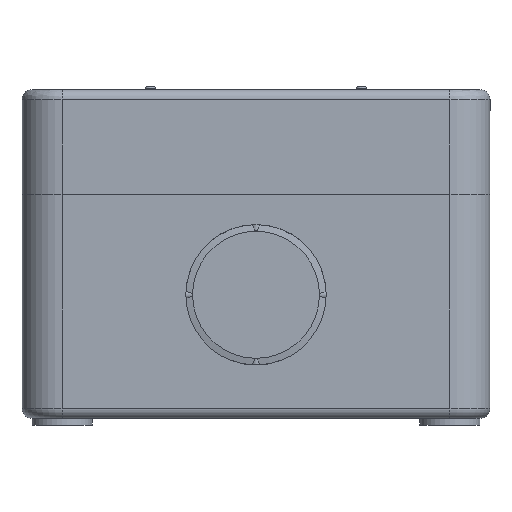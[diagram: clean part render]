
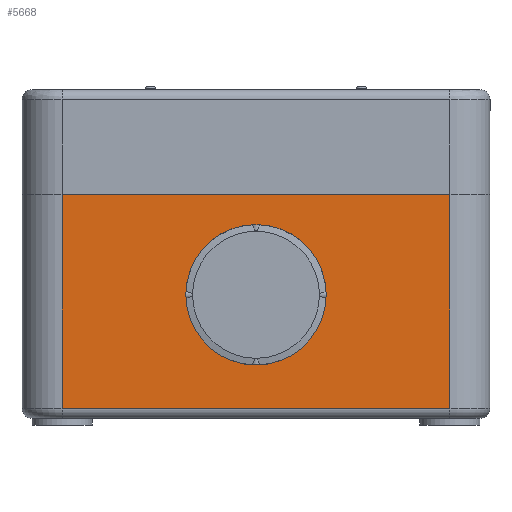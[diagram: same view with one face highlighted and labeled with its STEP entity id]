
A CAD part, front view. The second image highlights one B-rep face of the part: STEP entity #5668.
In plain terms, the highlighted planar face has unit normal (0, -1, 0).
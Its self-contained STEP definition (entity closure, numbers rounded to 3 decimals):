
#52 = AXIS2_PLACEMENT_3D ( 'NONE', #1854, #1346, #2829 ) ;
#207 = VERTEX_POINT ( 'NONE', #1652 ) ;
#433 = CARTESIAN_POINT ( 'NONE',  ( 10.5, 0., 0.25 ) ) ;
#454 = DIRECTION ( 'NONE',  ( 0., 1., 0. ) ) ;
#560 = CARTESIAN_POINT ( 'NONE',  ( 0., 0., 0.25 ) ) ;
#762 = LINE ( 'NONE', #3917, #4707 ) ;
#766 = EDGE_LOOP ( 'NONE', ( #5853, #5694 ) ) ;
#979 = DIRECTION ( 'NONE',  ( 0., 0., -1. ) ) ;
#1058 = DIRECTION ( 'NONE',  ( 1., 0., 0. ) ) ;
#1172 = VERTEX_POINT ( 'NONE', #4330 ) ;
#1346 = DIRECTION ( 'NONE',  ( 0., -1., 0. ) ) ;
#1399 = FACE_OUTER_BOUND ( 'NONE', #5377, .T. ) ;
#1406 = VERTEX_POINT ( 'NONE', #2349 ) ;
#1652 = CARTESIAN_POINT ( 'NONE',  ( -29., 0., -16.75 ) ) ;
#1709 = LINE ( 'NONE', #3748, #4663 ) ;
#1854 = CARTESIAN_POINT ( 'NONE',  ( 35., 0., -18.25 ) ) ;
#2032 = VECTOR ( 'NONE', #2618, 1000. ) ;
#2042 = ORIENTED_EDGE ( 'NONE', *, *, #2044, .T. ) ;
#2044 = EDGE_CURVE ( 'NONE', #1172, #3802, #6129, .T. ) ;
#2185 = ORIENTED_EDGE ( 'NONE', *, *, #6243, .T. ) ;
#2349 = CARTESIAN_POINT ( 'NONE',  ( 29., 0., -16.75 ) ) ;
#2461 = VECTOR ( 'NONE', #3097, 1000. ) ;
#2545 = FACE_BOUND ( 'NONE', #766, .T. ) ;
#2618 = DIRECTION ( 'NONE',  ( -1., 0., 0. ) ) ;
#2829 = DIRECTION ( 'NONE',  ( 0., 0., -1. ) ) ;
#3097 = DIRECTION ( 'NONE',  ( 0., 0., -1. ) ) ;
#3121 = CARTESIAN_POINT ( 'NONE',  ( -10.5, 0., 0.25 ) ) ;
#3141 = EDGE_CURVE ( 'NONE', #4205, #6048, #3539, .T. ) ;
#3173 = EDGE_CURVE ( 'NONE', #1172, #1406, #762, .T. ) ;
#3221 = DIRECTION ( 'NONE',  ( 1., 0., 0. ) ) ;
#3385 = AXIS2_PLACEMENT_3D ( 'NONE', #3400, #454, #3901 ) ;
#3400 = CARTESIAN_POINT ( 'NONE',  ( 0., 0., 0.25 ) ) ;
#3539 = CIRCLE ( 'NONE', #3385, 10.5 ) ;
#3588 = ORIENTED_EDGE ( 'NONE', *, *, #3173, .F. ) ;
#3748 = CARTESIAN_POINT ( 'NONE',  ( 29., 0., -16.75 ) ) ;
#3777 = LINE ( 'NONE', #6081, #2461 ) ;
#3802 = VERTEX_POINT ( 'NONE', #5103 ) ;
#3901 = DIRECTION ( 'NONE',  ( 1., 0., 0. ) ) ;
#3917 = CARTESIAN_POINT ( 'NONE',  ( 29., 0., -18.25 ) ) ;
#3995 = DIRECTION ( 'NONE',  ( 0., 1., 0. ) ) ;
#4205 = VERTEX_POINT ( 'NONE', #3121 ) ;
#4299 = AXIS2_PLACEMENT_3D ( 'NONE', #560, #3995, #1058 ) ;
#4330 = CARTESIAN_POINT ( 'NONE',  ( 29., 0., 15.25 ) ) ;
#4596 = EDGE_CURVE ( 'NONE', #6048, #4205, #4907, .T. ) ;
#4663 = VECTOR ( 'NONE', #3221, 1000. ) ;
#4707 = VECTOR ( 'NONE', #979, 1000. ) ;
#4907 = CIRCLE ( 'NONE', #4299, 10.5 ) ;
#5103 = CARTESIAN_POINT ( 'NONE',  ( -29., 0., 15.25 ) ) ;
#5377 = EDGE_LOOP ( 'NONE', ( #2185, #5891, #3588, #2042 ) ) ;
#5577 = EDGE_CURVE ( 'NONE', #207, #1406, #1709, .T. ) ;
#5668 = ADVANCED_FACE ( 'NONE', ( #1399, #2545 ), #5822, .T. ) ;
#5694 = ORIENTED_EDGE ( 'NONE', *, *, #3141, .T. ) ;
#5822 = PLANE ( 'NONE',  #52 ) ;
#5853 = ORIENTED_EDGE ( 'NONE', *, *, #4596, .T. ) ;
#5891 = ORIENTED_EDGE ( 'NONE', *, *, #5577, .T. ) ;
#6048 = VERTEX_POINT ( 'NONE', #433 ) ;
#6081 = CARTESIAN_POINT ( 'NONE',  ( -29., 0., -18.25 ) ) ;
#6104 = CARTESIAN_POINT ( 'NONE',  ( 35., 0., 15.25 ) ) ;
#6129 = LINE ( 'NONE', #6104, #2032 ) ;
#6243 = EDGE_CURVE ( 'NONE', #3802, #207, #3777, .T. ) ;
